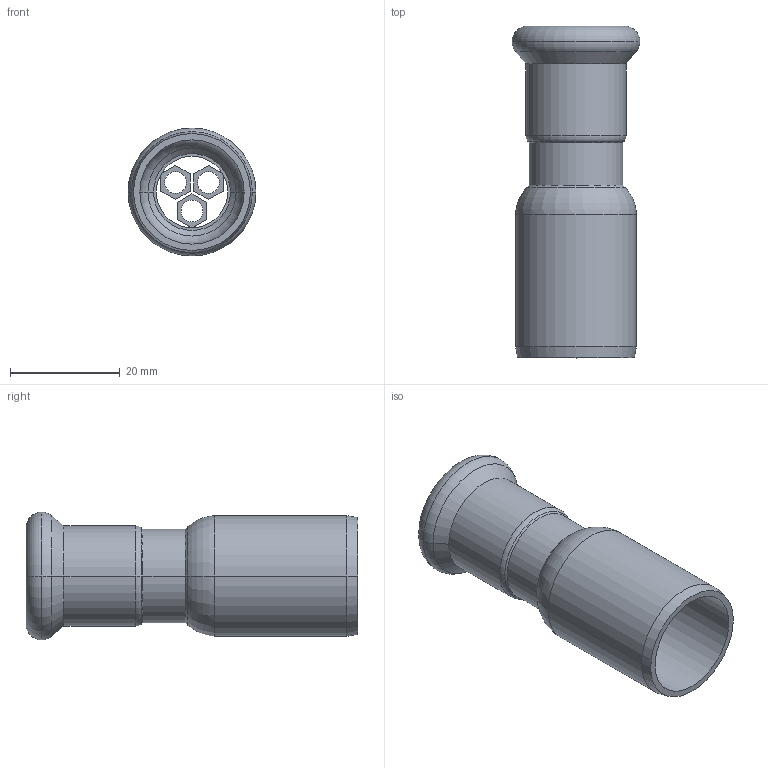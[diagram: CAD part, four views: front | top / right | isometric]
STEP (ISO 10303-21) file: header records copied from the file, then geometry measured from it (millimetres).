
FILE_DESCRIPTION(('OneSpaceDesigner STEP Export'),'2;1');
FILE_NAME('R2707 15x22.stp','2010-06-09T11:51:16',(''),(''),'OneSpace Designer STEP processor for AP214 (Solid Model)','OneSpace Modeling 15.00A 14-Mar-2007 (C) CoCreate Software GmbH','');
FILE_SCHEMA(('AUTOMOTIVE_DESIGN { 1 0 10303 214 1 1 1 1 }'));
Length unit declared in the file: millimetre
Products named in the file (2): R2707_15x22
Assembly tree (1 placements, depth 2):
  R2707_15x22
    R2707_15x22
Bounding box: 23.3 x 60.5 x 23.3 mm (x, y, z)
Volume: 6092 mm3; surface area: 7821.6 mm2
Topology: 1 solids, 1 shells, 77 faces, 181 edges, 112 vertices
Faces by surface type: plane 32, cylinder 25, cone 10, torus 10
Entity records: 1978 total; most frequent: ORIENTED_EDGE 362, CARTESIAN_POINT 314, DIRECTION 303, EDGE_CURVE 181, VERTEX_POINT 112, AXIS2_PLACEMENT_3D 101, VECTOR 101, LINE 101
